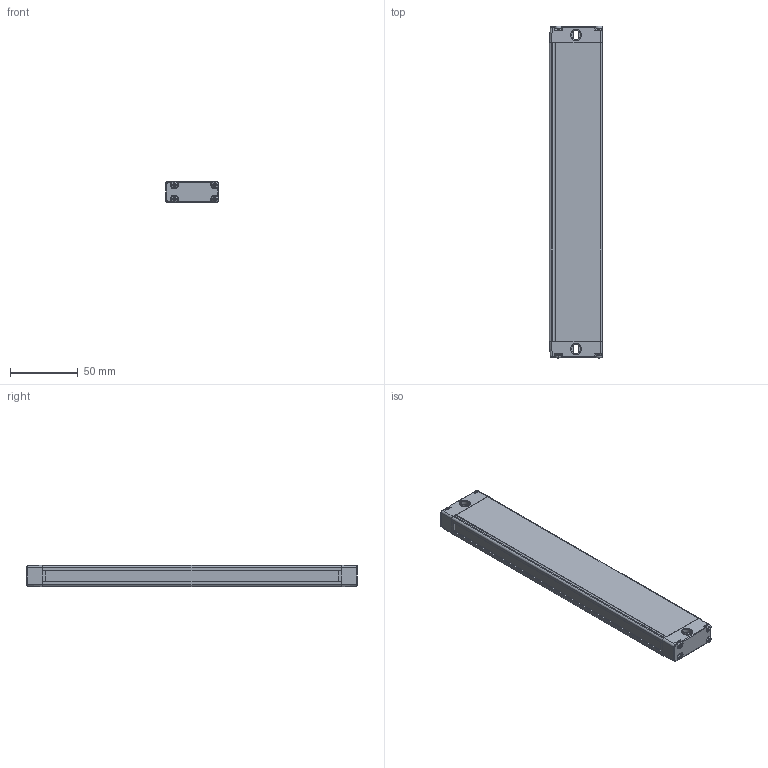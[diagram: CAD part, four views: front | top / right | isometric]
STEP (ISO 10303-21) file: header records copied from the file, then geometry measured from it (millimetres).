
FILE_DESCRIPTION((''),'2;1');
FILE_NAME('EB15--3610_ASM','2021-07-22T11:07:19',('18720616900'),(''),'CREO PARAMETRIC BY PTC INC, 2019010','CREO PARAMETRIC BY PTC INC, 2019010','');
FILE_SCHEMA(('CONFIG_CONTROL_DESIGN'));
Length unit declared in the file: millimetre
Products named in the file (6): EB15-00; EB15-000; EB15-0003; EB15-0004; ST-3-12; EB15--3610_ASM
Assembly tree (12 placements, depth 2):
  EB15--3610_ASM
    EB15-00
    EB15-000
    EB15-0003
    EB15-0004
    ST-3-12  x8
Bounding box: 39.15 x 245 x 15.8 mm (x, y, z)
Volume: 146640.2 mm3; surface area: 40034.9 mm2
Topology: 12 solids, 12 shells, 827 faces, 2188 edges, 1368 vertices
Faces by surface type: plane 242, bspline 188, cone 176, cylinder 165, torus 40, sphere 16
Entity records: 16044 total; most frequent: CARTESIAN_POINT 7660, ORIENTED_EDGE 1804, DIRECTION 1603, EDGE_CURVE 902, AXIS2_PLACEMENT_3D 577, VERTEX_POINT 563, VECTOR 449, LINE 449
